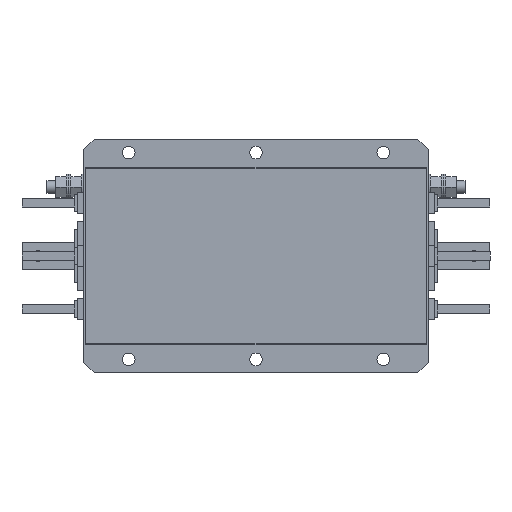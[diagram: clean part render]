
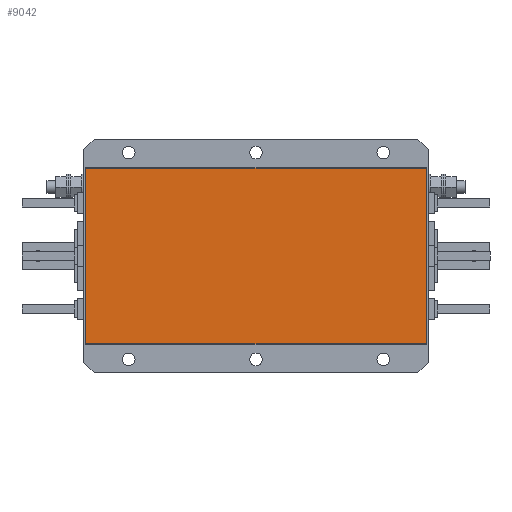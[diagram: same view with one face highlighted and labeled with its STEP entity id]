
A CAD part, left-side view. The second image highlights one B-rep face of the part: STEP entity #9042.
In plain terms, the highlighted planar face has unit normal (-1, 0, 0).
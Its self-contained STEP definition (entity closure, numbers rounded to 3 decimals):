
#479 = ORIENTED_EDGE ( 'NONE', *, *, #11933, .T. ) ;
#1137 = CARTESIAN_POINT ( 'NONE',  ( 0., 0., 0. ) ) ;
#1652 = CARTESIAN_POINT ( 'NONE',  ( 0., 160.3, 82.8 ) ) ;
#1695 = EDGE_LOOP ( 'NONE', ( #17772, #479, #2793, #8537 ) ) ;
#1937 = VERTEX_POINT ( 'NONE', #5659 ) ;
#2793 = ORIENTED_EDGE ( 'NONE', *, *, #17531, .T. ) ;
#3608 = LINE ( 'NONE', #6578, #8660 ) ;
#3935 = DIRECTION ( 'NONE',  ( 0., 1., 0. ) ) ;
#3959 = EDGE_CURVE ( 'NONE', #1937, #7791, #3608, .T. ) ;
#4543 = CARTESIAN_POINT ( 'NONE',  ( 0., -160.3, 82.8 ) ) ;
#4829 = VECTOR ( 'NONE', #7173, 1000. ) ;
#5659 = CARTESIAN_POINT ( 'NONE',  ( 0., 160.3, -82.8 ) ) ;
#5884 = LINE ( 'NONE', #1652, #7339 ) ;
#6448 = FACE_OUTER_BOUND ( 'NONE', #1695, .T. ) ;
#6468 = AXIS2_PLACEMENT_3D ( 'NONE', #1137, #16049, #3935 ) ;
#6578 = CARTESIAN_POINT ( 'NONE',  ( 0., 160.3, -82.8 ) ) ;
#7089 = CARTESIAN_POINT ( 'NONE',  ( 0., -160.3, -82.8 ) ) ;
#7173 = DIRECTION ( 'NONE',  ( 0., 0., 1. ) ) ;
#7251 = DIRECTION ( 'NONE',  ( 0., 0., -1. ) ) ;
#7339 = VECTOR ( 'NONE', #7251, 1000. ) ;
#7791 = VERTEX_POINT ( 'NONE', #14768 ) ;
#8197 = VECTOR ( 'NONE', #15249, 1000. ) ;
#8198 = CARTESIAN_POINT ( 'NONE',  ( 0., -160.3, 82.8 ) ) ;
#8298 = CARTESIAN_POINT ( 'NONE',  ( 0., 160.3, 82.8 ) ) ;
#8537 = ORIENTED_EDGE ( 'NONE', *, *, #17786, .T. ) ;
#8660 = VECTOR ( 'NONE', #17633, 1000. ) ;
#9042 = ADVANCED_FACE ( 'NONE', ( #6448 ), #10529, .F. ) ;
#10529 = PLANE ( 'NONE',  #6468 ) ;
#11326 = LINE ( 'NONE', #7089, #4829 ) ;
#11933 = EDGE_CURVE ( 'NONE', #7791, #15095, #11326, .T. ) ;
#14768 = CARTESIAN_POINT ( 'NONE',  ( 0., -160.3, -82.8 ) ) ;
#15095 = VERTEX_POINT ( 'NONE', #4543 ) ;
#15249 = DIRECTION ( 'NONE',  ( 0., 1., 0. ) ) ;
#15924 = VERTEX_POINT ( 'NONE', #8298 ) ;
#16049 = DIRECTION ( 'NONE',  ( 1., 0., 0. ) ) ;
#16518 = LINE ( 'NONE', #8198, #8197 ) ;
#17531 = EDGE_CURVE ( 'NONE', #15095, #15924, #16518, .T. ) ;
#17633 = DIRECTION ( 'NONE',  ( 0., -1., 0. ) ) ;
#17772 = ORIENTED_EDGE ( 'NONE', *, *, #3959, .T. ) ;
#17786 = EDGE_CURVE ( 'NONE', #15924, #1937, #5884, .T. ) ;
